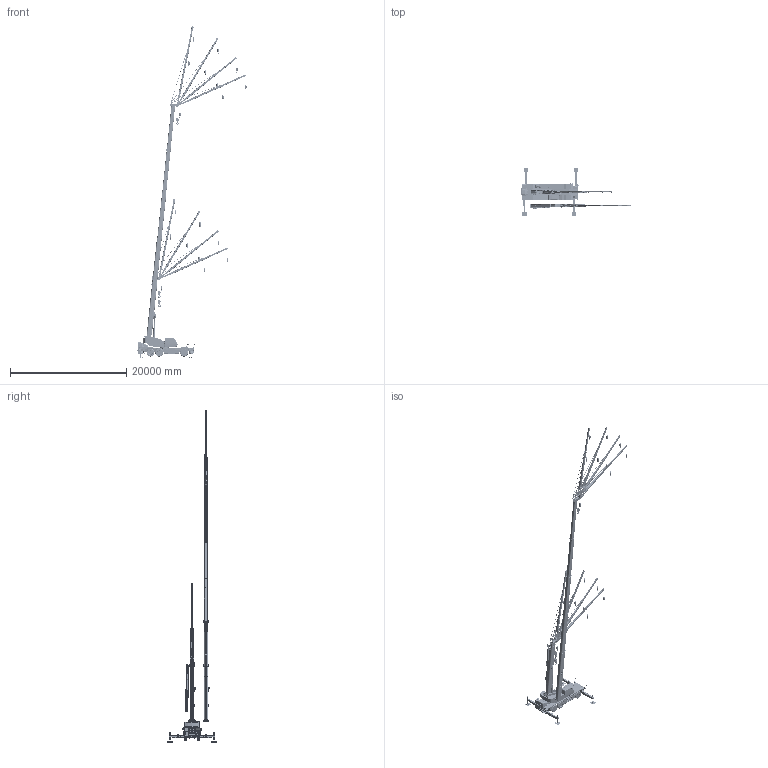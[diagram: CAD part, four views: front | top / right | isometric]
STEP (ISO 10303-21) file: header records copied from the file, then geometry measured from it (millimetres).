
FILE_DESCRIPTION(('CATIA V5 STEP Exchange','CAx-IF Rec.Pracs.--- Model Styling and Organization---1.4--- 2014-01-23'),'2;1');
FILE_NAME('\\Iba001\cad\CR\HP用CADデータ\01A\STP\SL-500Rf 3D.stp','2019-11-28T01:54:56+00:00',('none'),('none'),'CATIA Version 5-6 Release 2017 SP5 HF19','CATIA V5 STEP AP214','none');
FILE_SCHEMA(('AUTOMOTIVE_DESIGN { 1 0 10303 214 1 1 1 1 }'));
Products named in the file (45): SL-500Rf 3D; SL-500Rf UPPER; SL-500Rf UPPER STRUCTURE; SL-500Rf TABLE; SL-500Rf CAB; SL-500Rf MACHINE ROOM; SL-500Rf DERRICK CYLINDER-1; SL-500Rf DERRICK CYLINDER-2; SL-500Rf BOOM JIB Min; SL-500Rf BOOM Min; SL-500Rf BOOM1; SL-500Rf BOOM2; SL-500Rf BOOM3; SL-500Rf BOOM4; SL-500Rf BOOM5; SL-500Rf JIB; SL-500Rf JIB 9.4m 5deg; SL-500Rf JIB1; SL-500Rf JIB2; SL-500Rf JIB3; SL-500Rf JIB TENSION ROD; SL-500Rf JIB 9.4m 25deg; SL-500Rf JIB 9.4m 45deg; SL-500Rf JIB 9.4m 60deg; SL-500Rf JIB 13.7m 5deg; SL-500Rf JIB 13.7m 25deg; SL-500Rf JIB 13.7m 45deg; SL-500Rf JIB 13.7m 60deg; SL-500Rf JIB Stowed; SL-500Rf JIB TENSION ROD Stowed; SL-500Rf HOOK 5t; SL-500Rf HOOK 34t; SL-500Rf HOOK 50t; SL-500Rf BOOM JIB Max; SL-500Rf BOOM Max; SL-500Rf CARRIER; SL-500Rf CHASSIS; SL-500Rf OUTRIGGER; SL-500Rf BEAM F-L; SL-500Rf BEAM OUTER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
Assembly tree (108 placements, depth 6):
  SL-500Rf 3D
    SL-500Rf UPPER
      SL-500Rf UPPER STRUCTURE
        SL-500Rf TABLE
        SL-500Rf CAB
        SL-500Rf MACHINE ROOM
        SL-500Rf DERRICK CYLINDER-1
        SL-500Rf DERRICK CYLINDER-2
      SL-500Rf BOOM JIB Min
        SL-500Rf BOOM Min
          SL-500Rf BOOM1
          SL-500Rf BOOM2
          SL-500Rf BOOM3
          SL-500Rf BOOM4
          SL-500Rf BOOM5
        SL-500Rf JIB
          SL-500Rf JIB 9.4m 5deg
            SL-500Rf JIB1
            SL-500Rf JIB2
            SL-500Rf JIB3
            SL-500Rf JIB TENSION ROD
          SL-500Rf JIB 9.4m 25deg
            SL-500Rf JIB1
            SL-500Rf JIB2
            SL-500Rf JIB3
            SL-500Rf JIB TENSION ROD
          SL-500Rf JIB 9.4m 45deg
            SL-500Rf JIB1
            SL-500Rf JIB2
            SL-500Rf JIB3
            SL-500Rf JIB TENSION ROD
          SL-500Rf JIB 9.4m 60deg
            SL-500Rf JIB1
            SL-500Rf JIB2
            SL-500Rf JIB3
            SL-500Rf JIB TENSION ROD
          SL-500Rf JIB 13.7m 5deg
            SL-500Rf JIB1
            SL-500Rf JIB2
            SL-500Rf JIB3
            SL-500Rf JIB TENSION ROD
          SL-500Rf JIB 13.7m 25deg
            SL-500Rf JIB1
            SL-500Rf JIB2
            SL-500Rf JIB3
            SL-500Rf JIB TENSION ROD
          SL-500Rf JIB 13.7m 45deg
            SL-500Rf JIB1
            SL-500Rf JIB2
            SL-500Rf JIB3
            SL-500Rf JIB TENSION ROD
          SL-500Rf JIB 13.7m 60deg
            SL-500Rf JIB1
            SL-500Rf JIB2
            SL-500Rf JIB3
            SL-500Rf JIB TENSION ROD
        SL-500Rf JIB Stowed
          SL-500Rf JIB1
          SL-500Rf JIB2
          SL-500Rf JIB3
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Bounding box: 18730.46 x 8400 x 57020.33 mm (x, y, z)
Volume: 87022898052 mm3; surface area: 902518806.4 mm2
Topology: 266 solids, 271 shells, 13473 faces, 36491 edges, 23818 vertices
Faces by surface type: plane 8526, cylinder 2822, extrusion 866, torus 767, bspline 338, cone 137, sphere 16, revolution 1
Entity records: 162630 total; most frequent: CARTESIAN_POINT 63872, ORIENTED_EDGE 22858, DIRECTION 15155, EDGE_CURVE 11429, VERTEX_POINT 7458, VECTOR 7436, LINE 7016, AXIS2_PLACEMENT_3D 4871
